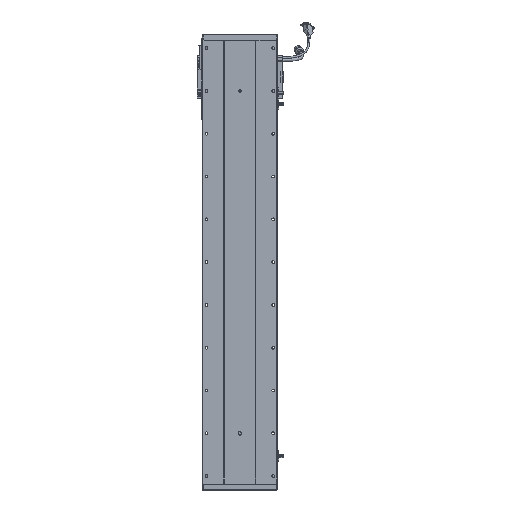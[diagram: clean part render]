
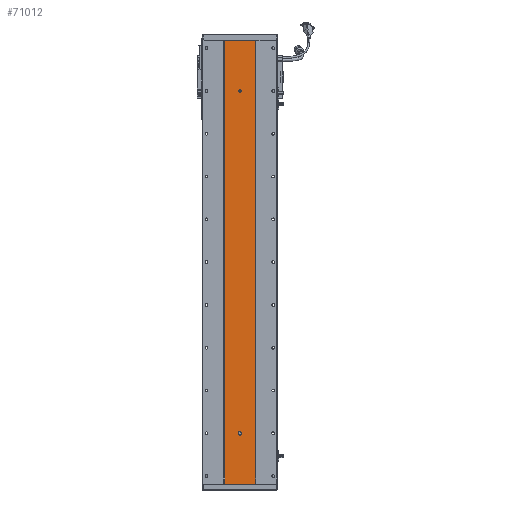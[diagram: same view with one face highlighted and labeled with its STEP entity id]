
A CAD part, front view. The second image highlights one B-rep face of the part: STEP entity #71012.
In plain terms, the highlighted planar face has unit normal (0, -1, 0).
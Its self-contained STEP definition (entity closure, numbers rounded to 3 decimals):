
#946 = AXIS2_PLACEMENT_3D ( 'NONE', #52807, #79640, #66077 ) ;
#1412 = CARTESIAN_POINT ( 'NONE',  ( 3283.529, 1415.701, 120. ) ) ;
#2618 = EDGE_LOOP ( 'NONE', ( #45290, #27258, #32901, #49314 ) ) ;
#3610 = CARTESIAN_POINT ( 'NONE',  ( 3316.311, 1415.701, 1037. ) ) ;
#4320 = CARTESIAN_POINT ( 'NONE',  ( 3244.748, 1415.701, 1037. ) ) ;
#4666 = CARTESIAN_POINT ( 'NONE',  ( 3280.529, 1415.701, 117. ) ) ;
#5180 = EDGE_CURVE ( 'NONE', #36359, #35698, #7207, .T. ) ;
#5681 = CARTESIAN_POINT ( 'NONE',  ( 3280.529, 1415.701, 915.5 ) ) ;
#6741 = CIRCLE ( 'NONE', #27593, 3. ) ;
#7207 = LINE ( 'NONE', #4320, #83059 ) ;
#7955 = ORIENTED_EDGE ( 'NONE', *, *, #30217, .F. ) ;
#8107 = DIRECTION ( 'NONE',  ( 0., -1., 0. ) ) ;
#8368 = CARTESIAN_POINT ( 'NONE',  ( 3316.311, 1415.701, 0. ) ) ;
#8722 = CARTESIAN_POINT ( 'NONE',  ( 3283.529, 1415.701, 117. ) ) ;
#9087 = CARTESIAN_POINT ( 'NONE',  ( 3277.529, 1415.701, 120. ) ) ;
#10865 = PLANE ( 'NONE',  #64926 ) ;
#12657 = CARTESIAN_POINT ( 'NONE',  ( 3244.748, 1415.701, 0. ) ) ;
#12722 = CIRCLE ( 'NONE', #77583, 3. ) ;
#14454 = CARTESIAN_POINT ( 'NONE',  ( 3277.529, 1415.701, 117. ) ) ;
#15909 = FACE_OUTER_BOUND ( 'NONE', #2618, .T. ) ;
#16065 = DIRECTION ( 'NONE',  ( 0., 0., -1. ) ) ;
#16235 = AXIS2_PLACEMENT_3D ( 'NONE', #75475, #8107, #61894 ) ;
#16691 = CARTESIAN_POINT ( 'NONE',  ( 3244.748, 1415.701, 0. ) ) ;
#19561 = CARTESIAN_POINT ( 'NONE',  ( 3277.529, 1415.701, 120. ) ) ;
#20263 = EDGE_CURVE ( 'NONE', #24151, #67622, #56140, .T. ) ;
#24151 = VERTEX_POINT ( 'NONE', #1412 ) ;
#27089 = LINE ( 'NONE', #19561, #48131 ) ;
#27258 = ORIENTED_EDGE ( 'NONE', *, *, #83000, .F. ) ;
#27593 = AXIS2_PLACEMENT_3D ( 'NONE', #71080, #70218, #30525 ) ;
#27918 = EDGE_LOOP ( 'NONE', ( #54589, #48463, #85923, #78787, #62527 ) ) ;
#28213 = EDGE_CURVE ( 'NONE', #74287, #81058, #12722, .T. ) ;
#28798 = VECTOR ( 'NONE', #86099, 1000. ) ;
#30217 = EDGE_CURVE ( 'NONE', #81058, #74287, #44154, .T. ) ;
#30488 = DIRECTION ( 'NONE',  ( 1., 0., 0. ) ) ;
#30525 = DIRECTION ( 'NONE',  ( 0., 0., -1. ) ) ;
#32901 = ORIENTED_EDGE ( 'NONE', *, *, #47248, .F. ) ;
#33747 = FACE_BOUND ( 'NONE', #74776, .T. ) ;
#34715 = EDGE_CURVE ( 'NONE', #67622, #68832, #27089, .T. ) ;
#35282 = LINE ( 'NONE', #16691, #81669 ) ;
#35698 = VERTEX_POINT ( 'NONE', #12657 ) ;
#36359 = VERTEX_POINT ( 'NONE', #40729 ) ;
#38141 = VERTEX_POINT ( 'NONE', #8722 ) ;
#38279 = CARTESIAN_POINT ( 'NONE',  ( 3280.529, 1415.701, 921.5 ) ) ;
#38624 = CARTESIAN_POINT ( 'NONE',  ( 3280.529, 1415.701, 918.5 ) ) ;
#38993 = CARTESIAN_POINT ( 'NONE',  ( 3244.748, 1415.701, 1037. ) ) ;
#39270 = DIRECTION ( 'NONE',  ( 0., 0., -1. ) ) ;
#40729 = CARTESIAN_POINT ( 'NONE',  ( 3244.748, 1415.701, 1037. ) ) ;
#40843 = VECTOR ( 'NONE', #16065, 1000. ) ;
#43240 = DIRECTION ( 'NONE',  ( 0., 0., 1. ) ) ;
#43794 = DIRECTION ( 'NONE',  ( 0., 0., -1. ) ) ;
#44154 = CIRCLE ( 'NONE', #16235, 3. ) ;
#45290 = ORIENTED_EDGE ( 'NONE', *, *, #56942, .T. ) ;
#47248 = EDGE_CURVE ( 'NONE', #36359, #68361, #58174, .T. ) ;
#48131 = VECTOR ( 'NONE', #39270, 1000. ) ;
#48463 = ORIENTED_EDGE ( 'NONE', *, *, #34715, .F. ) ;
#49314 = ORIENTED_EDGE ( 'NONE', *, *, #5180, .T. ) ;
#50120 = CARTESIAN_POINT ( 'NONE',  ( 3280.529, 1415.701, 114. ) ) ;
#51973 = AXIS2_PLACEMENT_3D ( 'NONE', #4666, #77709, #58761 ) ;
#52039 = EDGE_CURVE ( 'NONE', #59149, #38141, #74439, .T. ) ;
#52807 = CARTESIAN_POINT ( 'NONE',  ( 3280.529, 1415.701, 120. ) ) ;
#53252 = DIRECTION ( 'NONE',  ( 0., 0., -1. ) ) ;
#53704 = FACE_BOUND ( 'NONE', #27918, .T. ) ;
#53954 = ORIENTED_EDGE ( 'NONE', *, *, #28213, .F. ) ;
#54589 = ORIENTED_EDGE ( 'NONE', *, *, #57623, .F. ) ;
#56140 = CIRCLE ( 'NONE', #946, 3. ) ;
#56942 = EDGE_CURVE ( 'NONE', #35698, #61319, #35282, .T. ) ;
#57623 = EDGE_CURVE ( 'NONE', #68832, #59149, #6741, .T. ) ;
#57857 = CARTESIAN_POINT ( 'NONE',  ( 3244.748, 1415.701, 1037. ) ) ;
#58174 = LINE ( 'NONE', #38993, #28798 ) ;
#58761 = DIRECTION ( 'NONE',  ( 0., 0., -1. ) ) ;
#59149 = VERTEX_POINT ( 'NONE', #50120 ) ;
#61319 = VERTEX_POINT ( 'NONE', #8368 ) ;
#61894 = DIRECTION ( 'NONE',  ( 0., 0., -1. ) ) ;
#62527 = ORIENTED_EDGE ( 'NONE', *, *, #52039, .F. ) ;
#64926 = AXIS2_PLACEMENT_3D ( 'NONE', #57857, #83583, #43240 ) ;
#66077 = DIRECTION ( 'NONE',  ( 0., 0., -1. ) ) ;
#66318 = LINE ( 'NONE', #67657, #85303 ) ;
#67622 = VERTEX_POINT ( 'NONE', #9087 ) ;
#67657 = CARTESIAN_POINT ( 'NONE',  ( 3283.529, 1415.701, 120. ) ) ;
#68361 = VERTEX_POINT ( 'NONE', #77238 ) ;
#68832 = VERTEX_POINT ( 'NONE', #14454 ) ;
#70218 = DIRECTION ( 'NONE',  ( 0., -1., 0. ) ) ;
#71012 = ADVANCED_FACE ( 'NONE', ( #53704, #33747, #15909 ), #10865, .F. ) ;
#71080 = CARTESIAN_POINT ( 'NONE',  ( 3280.529, 1415.701, 117. ) ) ;
#74287 = VERTEX_POINT ( 'NONE', #38279 ) ;
#74439 = CIRCLE ( 'NONE', #51973, 3. ) ;
#74776 = EDGE_LOOP ( 'NONE', ( #7955, #53954 ) ) ;
#75475 = CARTESIAN_POINT ( 'NONE',  ( 3280.529, 1415.701, 918.5 ) ) ;
#76683 = LINE ( 'NONE', #3610, #40843 ) ;
#77238 = CARTESIAN_POINT ( 'NONE',  ( 3316.311, 1415.701, 1037. ) ) ;
#77583 = AXIS2_PLACEMENT_3D ( 'NONE', #38624, #79517, #53252 ) ;
#77709 = DIRECTION ( 'NONE',  ( 0., -1., 0. ) ) ;
#78787 = ORIENTED_EDGE ( 'NONE', *, *, #81681, .F. ) ;
#79517 = DIRECTION ( 'NONE',  ( 0., -1., 0. ) ) ;
#79640 = DIRECTION ( 'NONE',  ( 0., -1., 0. ) ) ;
#81058 = VERTEX_POINT ( 'NONE', #5681 ) ;
#81669 = VECTOR ( 'NONE', #30488, 1000. ) ;
#81681 = EDGE_CURVE ( 'NONE', #38141, #24151, #66318, .T. ) ;
#82406 = DIRECTION ( 'NONE',  ( 0., 0., 1. ) ) ;
#83000 = EDGE_CURVE ( 'NONE', #68361, #61319, #76683, .T. ) ;
#83059 = VECTOR ( 'NONE', #43794, 1000. ) ;
#83583 = DIRECTION ( 'NONE',  ( 0., 1., 0. ) ) ;
#85303 = VECTOR ( 'NONE', #82406, 1000. ) ;
#85923 = ORIENTED_EDGE ( 'NONE', *, *, #20263, .F. ) ;
#86099 = DIRECTION ( 'NONE',  ( 1., 0., 0. ) ) ;
